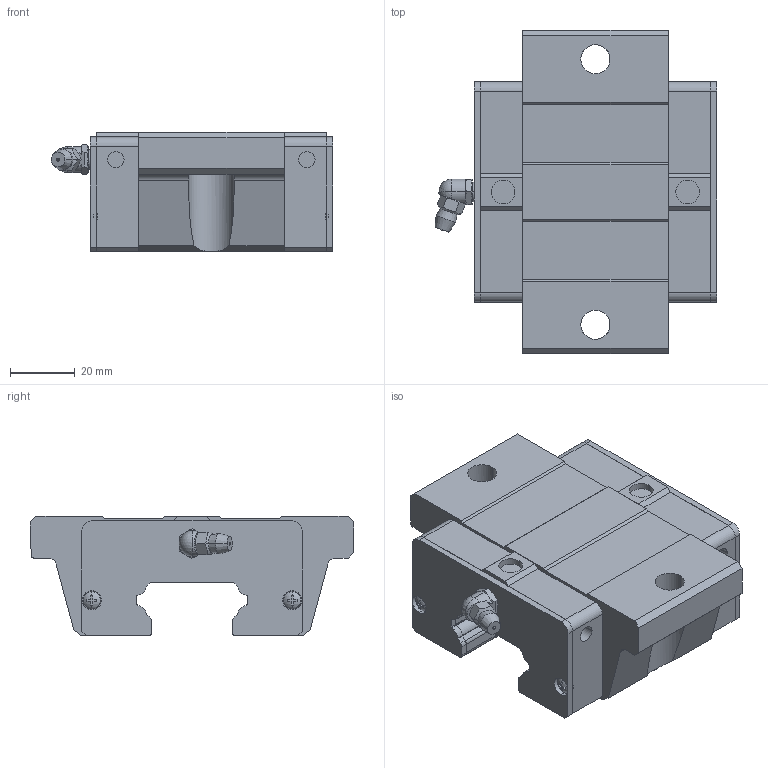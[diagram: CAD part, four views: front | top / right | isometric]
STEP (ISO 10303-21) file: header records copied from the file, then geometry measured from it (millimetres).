
FILE_DESCRIPTION(('starvars output'),'2;1');
FILE_NAME('cv20190626224212000075389.stp','22:42:13 2019/06/26',( 'Thomas Industrial Network Germany GmbH'),( 'Thomas Industrial Network Germany GmbH'),'unknown preprocess','ACIS' ,'unknown authorization');
FILE_SCHEMA(('CONFIG_CONTROL_DESIGN {UNKNOWN IMPLEMENTATION LEVEL}'));
Length unit declared in the file: millimetre
Products named in the file (10): PRODUCT_ID_1; PRODUCT_ID_2; PRODUCT_ID_3; PRODUCT_ID_4; PRODUCT_ID_5; PRODUCT_ID_6; PRODUCT_ID_7; PRODUCT_ID_8; PRODUCT_ID_9; PRODUCT_ID_10
Bounding box: 87 x 100 x 37 mm (x, y, z)
Volume: 174929.2 mm3; surface area: 44029.6 mm2
Topology: 10 solids, 10 shells, 427 faces, 1144 edges, 746 vertices
Faces by surface type: plane 239, cylinder 136, cone 40, sphere 12
Entity records: 13116 total; most frequent: ORIENTED_EDGE 2280, CARTESIAN_POINT 2166, DIRECTION 1931, EDGE_CURVE 1140, VERTEX_POINT 746, VECTOR 657, LINE 657, AXIS2_PLACEMENT_3D 637
